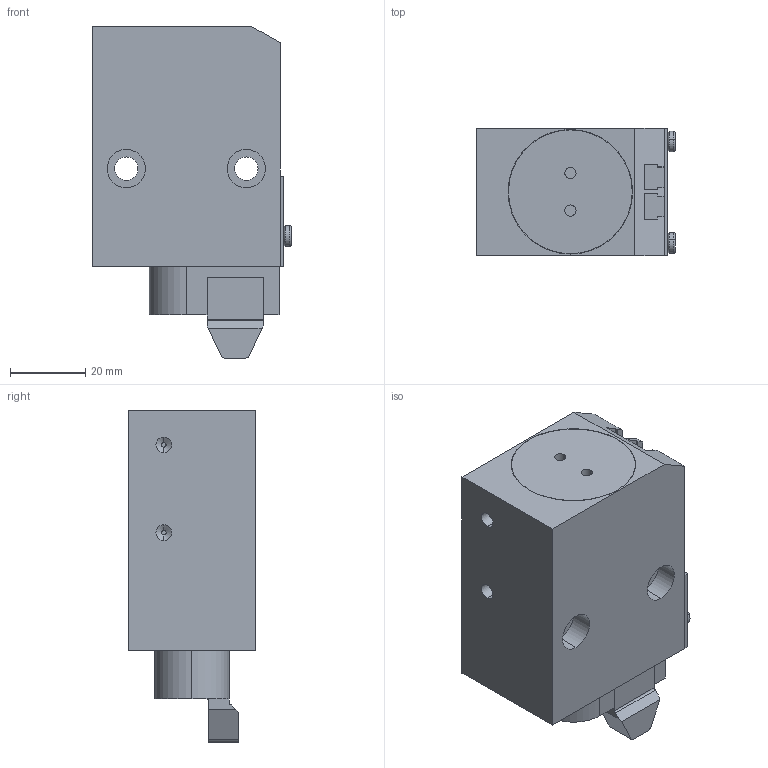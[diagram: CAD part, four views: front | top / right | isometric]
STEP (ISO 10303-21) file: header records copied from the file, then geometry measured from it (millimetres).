
FILE_DESCRIPTION (( 'STEP AP203' ), '1' );
FILE_NAME ('D0-200-13-EW-E-W50_Grundstellung.STEP', '2019-01-11T11:33:58', ( '' ), ( '' ), 'SwSTEP 2.0', 'SolidWorks 2017', '' );
FILE_SCHEMA (( 'CONFIG_CONTROL_DESIGN' ));
Length unit declared in the file: millimetre
Products named in the file (1): D0-200-13-EW-E-W50_Grundstellung
Bounding box: 53 x 34 x 88.5 mm (x, y, z)
Volume: 107921.4 mm3; surface area: 26702.8 mm2
Topology: 6 solids, 6 shells, 187 faces, 437 edges, 282 vertices
Faces by surface type: plane 101, cylinder 66, cone 14, torus 6
Entity records: 5430 total; most frequent: DIRECTION 969, CARTESIAN_POINT 907, ORIENTED_EDGE 874, EDGE_CURVE 437, AXIS2_PLACEMENT_3D 344, VERTEX_POINT 282, LINE 281, VECTOR 281
